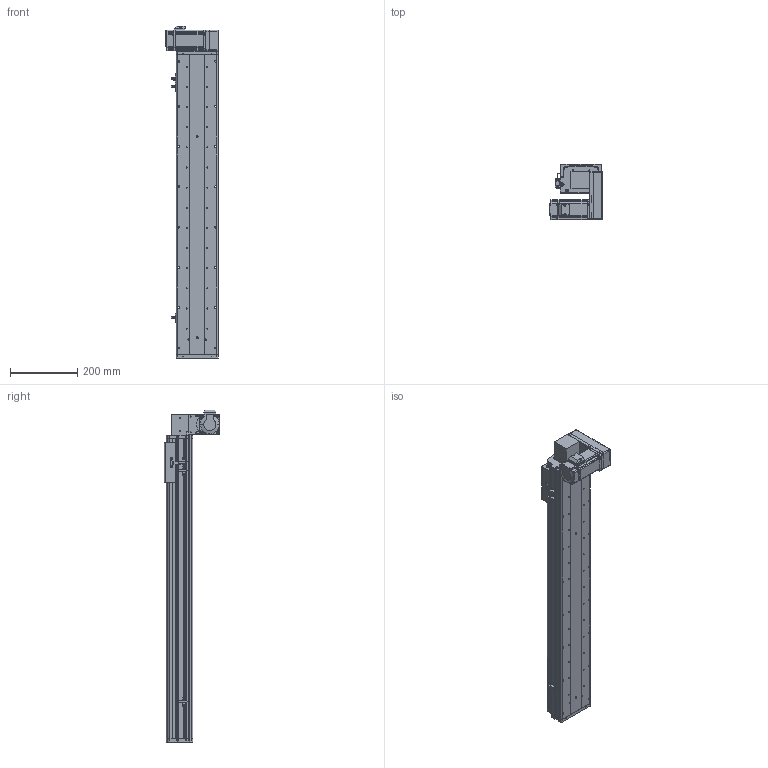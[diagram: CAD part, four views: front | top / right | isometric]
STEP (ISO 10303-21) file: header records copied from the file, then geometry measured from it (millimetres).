
FILE_DESCRIPTION (( 'STEP AP214' ), '1' );
FILE_NAME ('KSD125B-S700-MLD-CM.STEP', '2017-10-21T02:22:26', ( '微软用户' ), ( '微软中国' ), 'SwSTEP 2.0', 'SolidWorks 2014', '' );
FILE_SCHEMA (( 'AUTOMOTIVE_DESIGN' ));
Length unit declared in the file: millimetre
Products named in the file (17): HTPA30S3M150_A_H6_a佪裝蚚; HTPA30S3M150_A_H6_a萇儂蚚; 100宽马达安装板同步带左; KSD125模组700行程同步带-防尘盖; 125模组700行程同步带-底板; MHMD042G1CA_2_03; KSD125模组同步带-防撞垫2; 覜茼え68遵圉猾敕; U倰嫖萇假蚾璃; U倰嫖萇EEㄜSX672; KSD125模组同步带-防撞垫1; 前端板-125宽模组同步带; 125模组同步带-尾端板1; KSD125模组同步带-滑动座1; KSD125B-S700-MLD-CM; 悵誘欶奻狟殏; 100宽马达安装板连板上下折丝杆同步带
Assembly tree (20 placements, depth 2):
  KSD125B-S700-MLD-CM
    KSD125模组同步带-滑动座1
    125模组同步带-尾端板1
    前端板-125宽模组同步带
    KSD125模组同步带-防撞垫1
    U倰嫖萇EEㄜSX672  x3
    U倰嫖萇假蚾璃  x3
    覜茼え68遵圉猾敕
    KSD125模组同步带-防撞垫2
    MHMD042G1CA_2_03
    125模组700行程同步带-底板
    KSD125模组700行程同步带-防尘盖
    100宽马达安装板同步带左
    HTPA30S3M150_A_H6_a萇儂蚚
    HTPA30S3M150_A_H6_a佪裝蚚
    100宽马达安装板连板上下折丝杆同步带
    悵誘欶奻狟殏
Bounding box: 155 x 166.5 x 989 mm (x, y, z)
Volume: 3124438.2 mm3; surface area: 1068434.3 mm2
Topology: 19 solids, 22 shells, 2271 faces, 6577 edges, 4346 vertices
Faces by surface type: cylinder 1420, plane 724, cone 105, bspline 22
Entity records: 80651 total; most frequent: CARTESIAN_POINT 15939, DIRECTION 12542, ORIENTED_EDGE 11674, EDGE_CURVE 5915, AXIS2_PLACEMENT_3D 4845, VERTEX_POINT 3938, VECTOR 2852, LINE 2852
